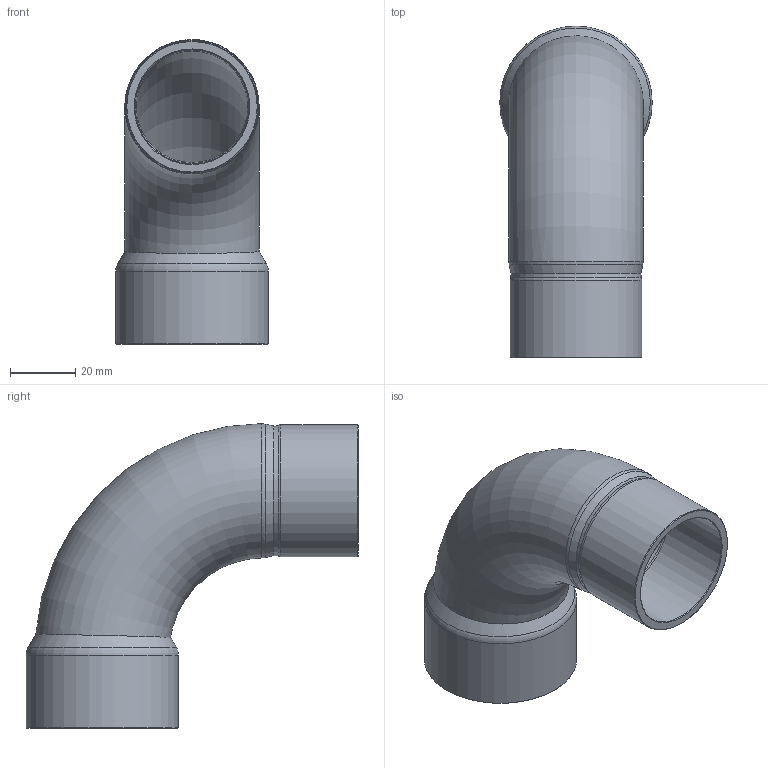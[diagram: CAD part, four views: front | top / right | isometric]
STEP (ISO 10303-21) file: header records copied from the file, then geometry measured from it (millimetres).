
FILE_DESCRIPTION((''),'2;1');
FILE_NAME('G:\SANHA-Ternat\Technik\Management\Bouwmaten + markeringen\z-maattekeningen 3D\29000s\29000s_gem\29002AR158138_gem.stp','2020-03-27T09:15:00',('vdvijverd'),(''),'Autodesk Inventor 2009','Autodesk Inventor 2009','');
FILE_SCHEMA(('AUTOMOTIVE_DESIGN { 1 0 10303 214 1 1 1 1 }'));
Length unit declared in the file: millimetre
Products named in the file (1): 29002AR158138_gem
Bounding box: 46.85 x 102 x 93.63 mm (x, y, z)
Volume: 43942.2 mm3; surface area: 33186.5 mm2
Topology: 1 solids, 1 shells, 24 faces, 50 edges, 28 vertices
Faces by surface type: cone 8, bspline 5, torus 5, cylinder 4, plane 2
Full cylindrical faces by diameter (mm): 35.105 x1, 40.505 x1, 41.455 x1, 46.855 x1
Entity records: 1660 total; most frequent: CARTESIAN_POINT 1245, DIRECTION 80, ORIENTED_EDGE 52, EDGE_LOOP 46, AXIS2_PLACEMENT_3D 40, EDGE_CURVE 26, VERTEX_POINT 24, FACE_OUTER_BOUND 24
